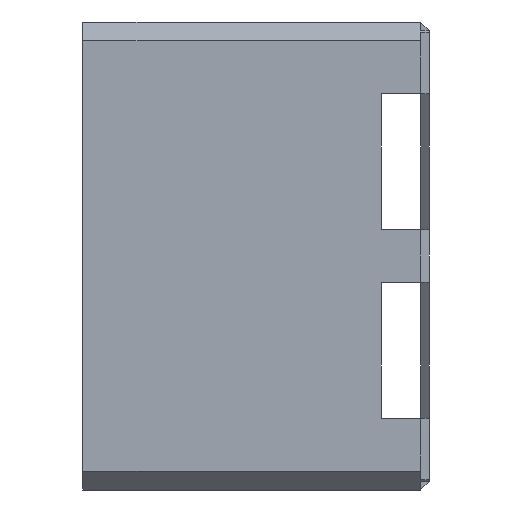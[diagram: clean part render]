
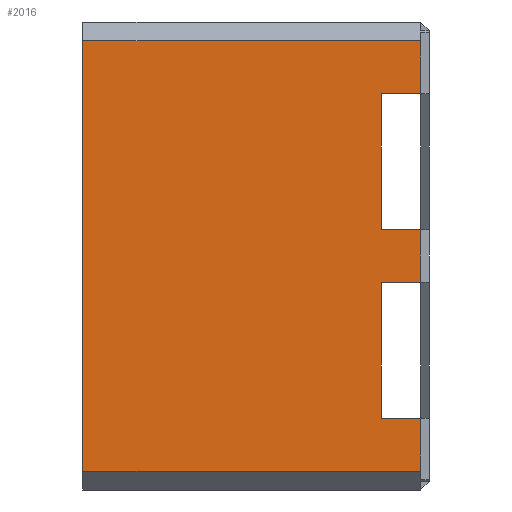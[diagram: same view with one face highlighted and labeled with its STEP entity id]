
A CAD part, left-side view. The second image highlights one B-rep face of the part: STEP entity #2016.
In plain terms, the highlighted planar face has unit normal (-1, 0, 0).
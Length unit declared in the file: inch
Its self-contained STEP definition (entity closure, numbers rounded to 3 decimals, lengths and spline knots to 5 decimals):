
#71 = DIRECTION ( 'NONE',  ( 1., 0., 0. ) ) ;
#122 = VERTEX_POINT ( 'NONE', #1649 ) ;
#124 = CARTESIAN_POINT ( 'NONE',  ( 0., 0.8, 19.9544 ) ) ;
#137 = CARTESIAN_POINT ( 'NONE',  ( 0., 0.8, 22.5 ) ) ;
#307 = CARTESIAN_POINT ( 'NONE',  ( 0., 0.8, 1.8 ) ) ;
#319 = CARTESIAN_POINT ( 'NONE',  ( 0., 0.8, 19.9544 ) ) ;
#341 = LINE ( 'NONE', #3029, #2329 ) ;
#353 = ORIENTED_EDGE ( 'NONE', *, *, #1449, .F. ) ;
#373 = CARTESIAN_POINT ( 'NONE',  ( 0., 4.6, 38.1088 ) ) ;
#377 = CARTESIAN_POINT ( 'NONE',  ( 0., 4.6, 6.8912 ) ) ;
#385 = CARTESIAN_POINT ( 'NONE',  ( 0., 33.3, 22.5 ) ) ;
#420 = VECTOR ( 'NONE', #2149, 39.37008 ) ;
#432 = ORIENTED_EDGE ( 'NONE', *, *, #1442, .F. ) ;
#477 = AXIS2_PLACEMENT_3D ( 'NONE', #2964, #71, #1815 ) ;
#490 = VECTOR ( 'NONE', #778, 39.37008 ) ;
#561 = LINE ( 'NONE', #1102, #2659 ) ;
#705 = VERTEX_POINT ( 'NONE', #1764 ) ;
#778 = DIRECTION ( 'NONE',  ( 0., 0., -1. ) ) ;
#836 = CARTESIAN_POINT ( 'NONE',  ( 0., 0., 1.8 ) ) ;
#863 = DIRECTION ( 'NONE',  ( 0., -1., 0. ) ) ;
#893 = VERTEX_POINT ( 'NONE', #124 ) ;
#912 = VECTOR ( 'NONE', #2803, 39.37008 ) ;
#982 = LINE ( 'NONE', #373, #420 ) ;
#997 = ORIENTED_EDGE ( 'NONE', *, *, #1489, .T. ) ;
#1001 = VERTEX_POINT ( 'NONE', #1492 ) ;
#1053 = CARTESIAN_POINT ( 'NONE',  ( 0., 0.8, 38.1088 ) ) ;
#1063 = LINE ( 'NONE', #2313, #2898 ) ;
#1080 = ORIENTED_EDGE ( 'NONE', *, *, #1469, .T. ) ;
#1102 = CARTESIAN_POINT ( 'NONE',  ( 0., 0.8, 22.5 ) ) ;
#1221 = LINE ( 'NONE', #319, #2398 ) ;
#1247 = ORIENTED_EDGE ( 'NONE', *, *, #1454, .F. ) ;
#1249 = EDGE_CURVE ( 'NONE', #2120, #893, #1747, .T. ) ;
#1305 = PLANE ( 'NONE',  #477 ) ;
#1312 = LINE ( 'NONE', #836, #2525 ) ;
#1327 = ORIENTED_EDGE ( 'NONE', *, *, #1477, .T. ) ;
#1344 = CARTESIAN_POINT ( 'NONE',  ( 0., 0.8, 25.0456 ) ) ;
#1442 = EDGE_CURVE ( 'NONE', #2822, #705, #1312, .T. ) ;
#1449 = EDGE_CURVE ( 'NONE', #2503, #2822, #561, .T. ) ;
#1454 = EDGE_CURVE ( 'NONE', #122, #2503, #3115, .T. ) ;
#1457 = EDGE_CURVE ( 'NONE', #2009, #122, #1828, .T. ) ;
#1464 = EDGE_CURVE ( 'NONE', #893, #2009, #1221, .T. ) ;
#1469 = EDGE_CURVE ( 'NONE', #2120, #1652, #1063, .T. ) ;
#1476 = EDGE_CURVE ( 'NONE', #1652, #2237, #982, .T. ) ;
#1477 = EDGE_CURVE ( 'NONE', #2237, #1001, #1674, .T. ) ;
#1482 = EDGE_CURVE ( 'NONE', #1001, #3127, #1595, .T. ) ;
#1489 = EDGE_CURVE ( 'NONE', #3127, #1759, #341, .T. ) ;
#1492 = CARTESIAN_POINT ( 'NONE',  ( 0., 0.8, 38.1088 ) ) ;
#1493 = EDGE_CURVE ( 'NONE', #1759, #705, #2256, .T. ) ;
#1507 = VECTOR ( 'NONE', #2376, 39.37008 ) ;
#1595 = LINE ( 'NONE', #137, #912 ) ;
#1617 = ORIENTED_EDGE ( 'NONE', *, *, #1457, .F. ) ;
#1621 = DIRECTION ( 'NONE',  ( 0., 1., 0. ) ) ;
#1649 = CARTESIAN_POINT ( 'NONE',  ( 0., 4.6, 6.8912 ) ) ;
#1652 = VERTEX_POINT ( 'NONE', #2111 ) ;
#1667 = CARTESIAN_POINT ( 'NONE',  ( 0., 0.8, 43.2 ) ) ;
#1674 = LINE ( 'NONE', #1053, #2841 ) ;
#1747 = LINE ( 'NONE', #2064, #490 ) ;
#1759 = VERTEX_POINT ( 'NONE', #2187 ) ;
#1764 = CARTESIAN_POINT ( 'NONE',  ( 0., 33.3, 1.8 ) ) ;
#1815 = DIRECTION ( 'NONE',  ( 0., 0., -1. ) ) ;
#1828 = LINE ( 'NONE', #377, #2979 ) ;
#1894 = DIRECTION ( 'NONE',  ( 0., 1., 0. ) ) ;
#1899 = EDGE_LOOP ( 'NONE', ( #432, #353, #1247, #1617, #2141, #2050, #1080, #2703, #1327, #2702, #997, #2853 ) ) ;
#2009 = VERTEX_POINT ( 'NONE', #2302 ) ;
#2016 = ADVANCED_FACE ( 'NONE', ( #2405 ), #1305, .F. ) ;
#2050 = ORIENTED_EDGE ( 'NONE', *, *, #1249, .F. ) ;
#2064 = CARTESIAN_POINT ( 'NONE',  ( 0., 0.8, 22.5 ) ) ;
#2111 = CARTESIAN_POINT ( 'NONE',  ( 0., 4.6, 25.0456 ) ) ;
#2120 = VERTEX_POINT ( 'NONE', #1344 ) ;
#2141 = ORIENTED_EDGE ( 'NONE', *, *, #1464, .F. ) ;
#2149 = DIRECTION ( 'NONE',  ( 0., 0., 1. ) ) ;
#2187 = CARTESIAN_POINT ( 'NONE',  ( 0., 33.3, 43.2 ) ) ;
#2237 = VERTEX_POINT ( 'NONE', #2863 ) ;
#2256 = LINE ( 'NONE', #385, #1507 ) ;
#2268 = CARTESIAN_POINT ( 'NONE',  ( 0., 0.8, 6.8912 ) ) ;
#2302 = CARTESIAN_POINT ( 'NONE',  ( 0., 4.6, 19.9544 ) ) ;
#2313 = CARTESIAN_POINT ( 'NONE',  ( 0., 0.8, 25.0456 ) ) ;
#2329 = VECTOR ( 'NONE', #1894, 39.37008 ) ;
#2363 = DIRECTION ( 'NONE',  ( 0., -1., 0. ) ) ;
#2376 = DIRECTION ( 'NONE',  ( 0., 0., -1. ) ) ;
#2398 = VECTOR ( 'NONE', #2962, 39.37008 ) ;
#2405 = FACE_OUTER_BOUND ( 'NONE', #1899, .T. ) ;
#2455 = VECTOR ( 'NONE', #863, 39.37008 ) ;
#2503 = VERTEX_POINT ( 'NONE', #2268 ) ;
#2525 = VECTOR ( 'NONE', #1621, 39.37008 ) ;
#2527 = DIRECTION ( 'NONE',  ( 0., 1., 0. ) ) ;
#2577 = CARTESIAN_POINT ( 'NONE',  ( 0., 0.8, 6.8912 ) ) ;
#2659 = VECTOR ( 'NONE', #2798, 39.37008 ) ;
#2702 = ORIENTED_EDGE ( 'NONE', *, *, #1482, .T. ) ;
#2703 = ORIENTED_EDGE ( 'NONE', *, *, #1476, .T. ) ;
#2736 = DIRECTION ( 'NONE',  ( 0., 0., -1. ) ) ;
#2798 = DIRECTION ( 'NONE',  ( 0., 0., -1. ) ) ;
#2803 = DIRECTION ( 'NONE',  ( 0., 0., 1. ) ) ;
#2822 = VERTEX_POINT ( 'NONE', #307 ) ;
#2841 = VECTOR ( 'NONE', #2363, 39.37008 ) ;
#2853 = ORIENTED_EDGE ( 'NONE', *, *, #1493, .T. ) ;
#2863 = CARTESIAN_POINT ( 'NONE',  ( 0., 4.6, 38.1088 ) ) ;
#2898 = VECTOR ( 'NONE', #2527, 39.37008 ) ;
#2962 = DIRECTION ( 'NONE',  ( 0., 1., 0. ) ) ;
#2964 = CARTESIAN_POINT ( 'NONE',  ( 0., 0., 22.5 ) ) ;
#2979 = VECTOR ( 'NONE', #2736, 39.37008 ) ;
#3029 = CARTESIAN_POINT ( 'NONE',  ( 0., 0., 43.2 ) ) ;
#3115 = LINE ( 'NONE', #2577, #2455 ) ;
#3127 = VERTEX_POINT ( 'NONE', #1667 ) ;
